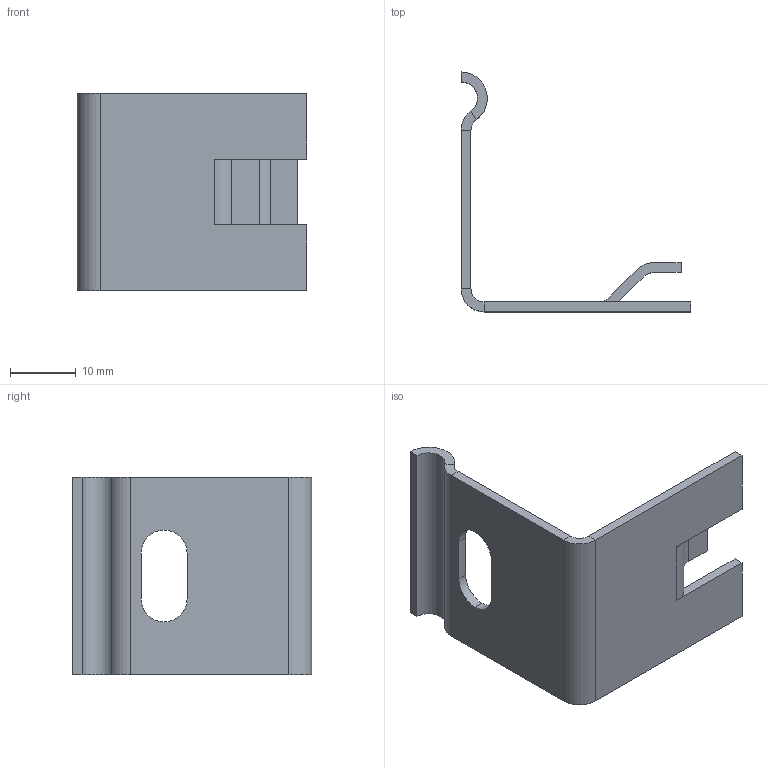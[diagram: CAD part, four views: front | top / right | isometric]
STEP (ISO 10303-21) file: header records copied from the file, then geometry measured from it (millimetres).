
FILE_DESCRIPTION (( 'STEP AP214' ), '1' );
FILE_NAME ('PATTE PUF.step', '2017-04-05T08:05:15', ( '' ), ( '' ), 'SwSTEP 2.0', 'SolidWorks 2015', '' );
FILE_SCHEMA (( 'AUTOMOTIVE_DESIGN' ));
Length unit declared in the file: millimetre
Products named in the file (1): PATTE PUF
Bounding box: 35 x 36.5 x 30 mm (x, y, z)
Volume: 3062.9 mm3; surface area: 4514.2 mm2
Topology: 1 solids, 1 shells, 41 faces, 99 edges, 60 vertices
Faces by surface type: plane 28, cylinder 13
Entity records: 1213 total; most frequent: DIRECTION 209, CARTESIAN_POINT 201, ORIENTED_EDGE 198, EDGE_CURVE 99, LINE 73, VECTOR 73, AXIS2_PLACEMENT_3D 68, VERTEX_POINT 60
